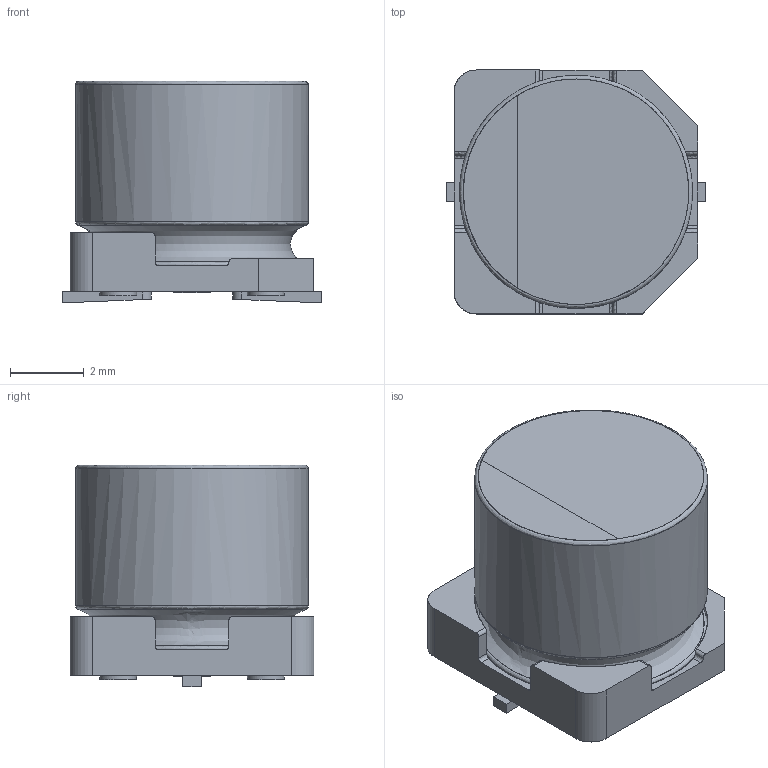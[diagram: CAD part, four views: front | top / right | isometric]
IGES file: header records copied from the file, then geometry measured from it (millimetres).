
Start section: JAMA-IS VERSION  1.0
Bounding box: 7 x 6.6 x 6 mm (x, y, z)
Surface area: 303.3 mm2 (no closed solid volume)
Topology: 0 solids, 0 shells, 74 faces, 994 edges, 976 vertices
Faces by surface type: bspline 74
